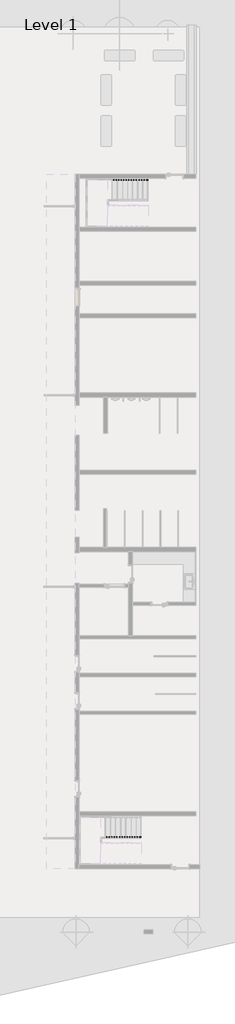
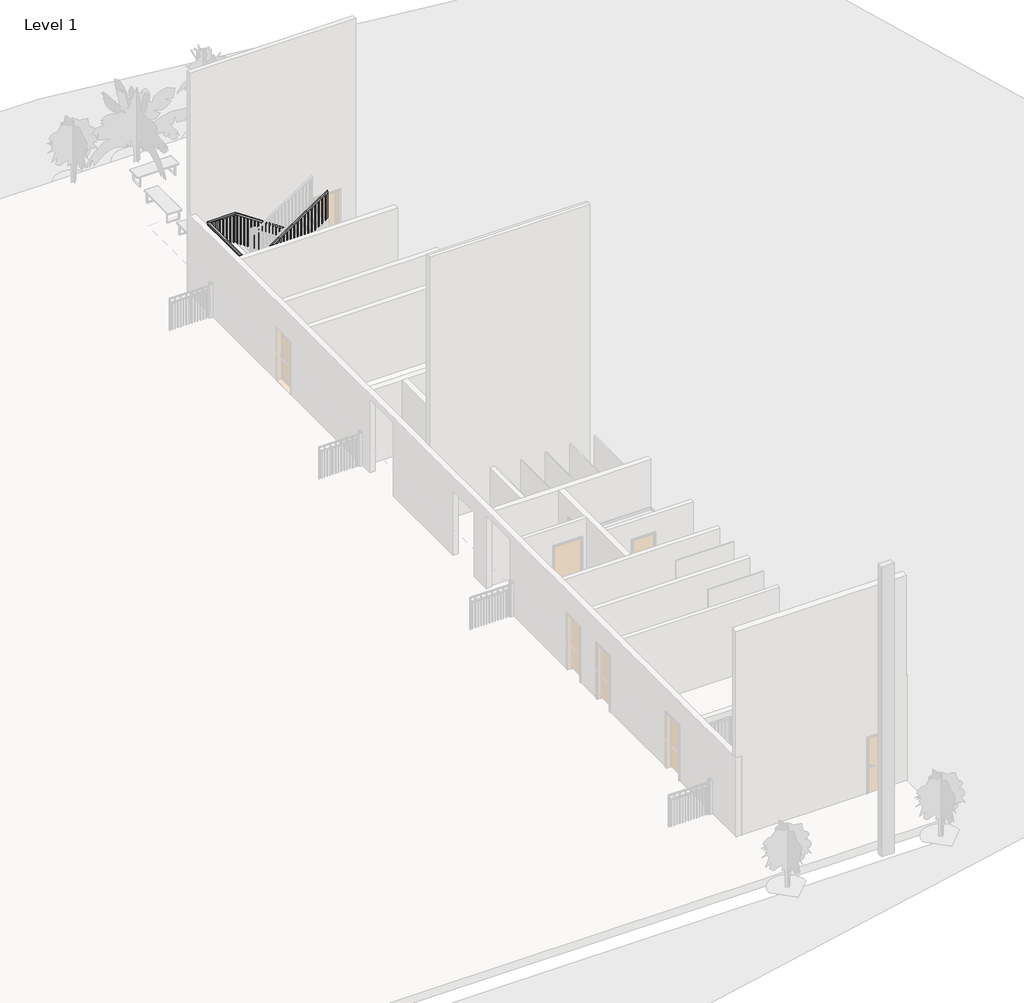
# One storey, part 28 of 32: 2 railings.
"""IFC4 building model written with IfcOpenShell, lengths in millimetres."""

from ifc_helpers import new_model, si_unit, frame, origin, place, context, project, spatial, polyline, outline, extrude, faceted_brep, element, save

model = new_model("IFC4")

# Units and contexts
model_context = context("Model", 3, world=origin())
ifc_project = project(units=[si_unit("LENGTHUNIT", "METRE", prefix="MILLI")], contexts=[model_context])

# Site, building, storey
site = spatial("IfcSite", under=ifc_project)
building = spatial("IfcBuilding", under=site)
storey = spatial("IfcBuildingStorey", under=building, Name="Level 1", Elevation=2800.0)

# Railings
placement = place(None, origin())
element("IfcRailing", 1, ObjectType="1100mm", at=placement, inside=storey, context=model_context, shape_type="SolidModel", body=[
    faceted_brep([(-15660.7705062, -31865.3565305, 4066.6666667), (-15660.7705062, -31865.3565305, 4006.5741454), (-15660.7705062, -31815.3565305, 4006.5741454), (-15660.7705062, -31815.3565305, 4066.6666667), (-17586.1705062, -31865.3565305, 5350.2666667), (-17636.1705062, -31865.3565305, 5323.5074787), (-17636.1705062, -31815.3565305, 5323.5074787), (-17586.1705062, -31815.3565305, 5350.2666667), (-17586.1705062, -31865.3565305, 5400.0), (-17636.1705062, -31865.3565305, 5350.0), (-17636.1705062, -31815.3565305, 5350.0), (-17586.1705062, -31815.3565305, 5400.0), (-17661.1705062, -31865.3565305, 5400.0), (-17661.1705062, -31865.3565305, 5350.0), (-17711.1705062, -31815.3565305, 5350.0), (-17711.1705062, -31815.3565305, 5400.0), (-17661.1705062, -31940.3565305, 5400.0), (-17661.1705062, -31940.3565305, 5350.0), (-17711.1705062, -31940.3565305, 5350.0), (-17711.1705062, -31940.3565305, 5400.0), (-17661.1705062, -32091.1565305, 5400.0), (-17661.1705062, -32141.1565305, 5350.0), (-17711.1705062, -32141.1565305, 5350.0), (-17711.1705062, -32091.1565305, 5400.0), (-17661.1705062, -32091.1565305, 5616.4), (-17661.1705062, -32141.1565305, 5566.4), (-17711.1705062, -32141.1565305, 5566.4), (-17711.1705062, -32091.1565305, 5616.4), (-17661.1705062, -32166.1565305, 5616.4), (-17661.1705062, -32166.1565305, 5566.4), (-17711.1705062, -32216.1565305, 5566.4), (-17711.1705062, -32216.1565305, 5616.4), (-17586.1705062, -32166.1565305, 5616.4), (-17571.0317243, -32166.1565305, 5566.4), (-17571.0317243, -32216.1565305, 5566.4), (-17586.1705062, -32216.1565305, 5616.4), (-15660.7705062, -32166.1565305, 6900.0), (-15660.7705062, -32216.1565305, 6900.0), (-15660.7705062, -32216.1565305, 6839.9074787), (-15660.7705062, -32166.1565305, 6839.9074787)], [[[0, 1, 2, 3]], [[1, 0, 4, 5]], [[2, 1, 5, 6]], [[3, 2, 6, 7]], [[0, 3, 7, 4]], [[5, 4, 8, 9]], [[6, 5, 9, 10]], [[7, 6, 10, 11]], [[4, 7, 11, 8]], [[9, 8, 12, 13]], [[10, 9, 13, 14]], [[11, 10, 14, 15]], [[8, 11, 15, 12]], [[13, 12, 16, 17]], [[14, 13, 17, 18]], [[15, 14, 18, 19]], [[12, 15, 19, 16]], [[17, 16, 20, 21]], [[18, 17, 21, 22]], [[19, 18, 22, 23]], [[16, 19, 23, 20]], [[21, 20, 24, 25]], [[22, 21, 25, 26]], [[23, 22, 26, 27]], [[20, 23, 27, 24]], [[25, 24, 28, 29]], [[26, 25, 29, 30]], [[27, 26, 30, 31]], [[24, 27, 31, 28]], [[29, 28, 32, 33]], [[30, 29, 33, 34]], [[31, 30, 34, 35]], [[28, 31, 35, 32]], [[36, 37, 38, 39]], [[33, 32, 36, 39]], [[34, 33, 39, 38]], [[35, 34, 38, 37]], [[32, 35, 37, 36]]]),
    extrude(outline(polyline([(5633.3333333, -15761.1705062), (5633.3333333, -15736.1705062), (6789.6408121, -15736.1705062), (6772.9741454, -15761.1705062), (5633.3333333, -15761.1705062)])), frame((0.0, -32203.6565305, 0.0), z_axis=(0.0, 1.0, 0.0), x_axis=(0.0, 0.0, 1.0)), (0.0, 0.0, 1.0), 25.0),
    extrude(outline(polyline([(5633.3333333, -15886.1705062), (5633.3333333, -15861.1705062), (6706.3074787, -15861.1705062), (6689.6408121, -15886.1705062), (5633.3333333, -15886.1705062)])), frame((0.0, -32203.6565305, 0.0), z_axis=(0.0, 1.0, 0.0), x_axis=(0.0, 0.0, 1.0)), (0.0, 0.0, 1.0), 25.0),
    extrude(outline(polyline([(5466.6666667, -16011.1705062), (5466.6666667, -15986.1705062), (6622.9741454, -15986.1705062), (6606.3074787, -16011.1705062), (5466.6666667, -16011.1705062)])), frame((0.0, -32203.6565305, 0.0), z_axis=(0.0, 1.0, 0.0), x_axis=(0.0, 0.0, 1.0)), (0.0, 0.0, 1.0), 25.0),
    extrude(outline(polyline([(5466.6666667, -16136.1705062), (5466.6666667, -16111.1705062), (6539.6408121, -16111.1705062), (6522.9741454, -16136.1705062), (5466.6666667, -16136.1705062)])), frame((0.0, -32203.6565305, 0.0), z_axis=(0.0, 1.0, 0.0), x_axis=(0.0, 0.0, 1.0)), (0.0, 0.0, 1.0), 25.0),
    extrude(outline(polyline([(5300.0, -16261.1705062), (5300.0, -16236.1705062), (6456.3074787, -16236.1705062), (6439.6408121, -16261.1705062), (5300.0, -16261.1705062)])), frame((0.0, -32203.6565305, 0.0), z_axis=(0.0, 1.0, 0.0), x_axis=(0.0, 0.0, 1.0)), (0.0, 0.0, 1.0), 25.0),
    extrude(outline(polyline([(5300.0, -16386.1705062), (5300.0, -16361.1705062), (6372.9741454, -16361.1705062), (6356.3074787, -16386.1705062), (5300.0, -16386.1705062)])), frame((0.0, -32203.6565305, 0.0), z_axis=(0.0, 1.0, 0.0), x_axis=(0.0, 0.0, 1.0)), (0.0, 0.0, 1.0), 25.0),
    extrude(outline(polyline([(5133.3333333, -16511.1705062), (5133.3333333, -16486.1705062), (6289.6408121, -16486.1705062), (6272.9741454, -16511.1705062), (5133.3333333, -16511.1705062)])), frame((0.0, -32203.6565305, 0.0), z_axis=(0.0, 1.0, 0.0), x_axis=(0.0, 0.0, 1.0)), (0.0, 0.0, 1.0), 25.0),
    extrude(outline(polyline([(5133.3333333, -16636.1705062), (5133.3333333, -16611.1705062), (6206.3074787, -16611.1705062), (6189.6408121, -16636.1705062), (5133.3333333, -16636.1705062)])), frame((0.0, -32203.6565305, 0.0), z_axis=(0.0, 1.0, 0.0), x_axis=(0.0, 0.0, 1.0)), (0.0, 0.0, 1.0), 25.0),
    extrude(outline(polyline([(4966.6666667, -16761.1705062), (4966.6666667, -16736.1705062), (6122.9741454, -16736.1705062), (6106.3074787, -16761.1705062), (4966.6666667, -16761.1705062)])), frame((0.0, -32203.6565305, 0.0), z_axis=(0.0, 1.0, 0.0), x_axis=(0.0, 0.0, 1.0)), (0.0, 0.0, 1.0), 25.0),
    extrude(outline(polyline([(4966.6666667, -16886.1705062), (4966.6666667, -16861.1705062), (6039.6408121, -16861.1705062), (6022.9741454, -16886.1705062), (4966.6666667, -16886.1705062)])), frame((0.0, -32203.6565305, 0.0), z_axis=(0.0, 1.0, 0.0), x_axis=(0.0, 0.0, 1.0)), (0.0, 0.0, 1.0), 25.0),
    extrude(outline(polyline([(4800.0, -17011.1705062), (4800.0, -16986.1705062), (5956.3074787, -16986.1705062), (5939.6408121, -17011.1705062), (4800.0, -17011.1705062)])), frame((0.0, -32203.6565305, 0.0), z_axis=(0.0, 1.0, 0.0), x_axis=(0.0, 0.0, 1.0)), (0.0, 0.0, 1.0), 25.0),
    extrude(outline(polyline([(4800.0, -17136.1705062), (4800.0, -17111.1705062), (5872.9741454, -17111.1705062), (5856.3074787, -17136.1705062), (4800.0, -17136.1705062)])), frame((0.0, -32203.6565305, 0.0), z_axis=(0.0, 1.0, 0.0), x_axis=(0.0, 0.0, 1.0)), (0.0, 0.0, 1.0), 25.0),
    extrude(outline(polyline([(4633.3333333, -17261.1705062), (4633.3333333, -17236.1705062), (5789.6408121, -17236.1705062), (5772.9741454, -17261.1705062), (4633.3333333, -17261.1705062)])), frame((0.0, -32203.6565305, 0.0), z_axis=(0.0, 1.0, 0.0), x_axis=(0.0, 0.0, 1.0)), (0.0, 0.0, 1.0), 25.0),
    extrude(outline(polyline([(4633.3333333, -17386.1705062), (4633.3333333, -17361.1705062), (5706.3074787, -17361.1705062), (5689.6408121, -17386.1705062), (4633.3333333, -17386.1705062)])), frame((0.0, -32203.6565305, 0.0), z_axis=(0.0, 1.0, 0.0), x_axis=(0.0, 0.0, 1.0)), (0.0, 0.0, 1.0), 25.0),
    extrude(outline(polyline([(4466.6666667, -17511.1705062), (4466.6666667, -17486.1705062), (5622.9741454, -17486.1705062), (5606.3074787, -17511.1705062), (4466.6666667, -17511.1705062)])), frame((0.0, -32203.6565305, 0.0), z_axis=(0.0, 1.0, 0.0), x_axis=(0.0, 0.0, 1.0)), (0.0, 0.0, 1.0), 25.0),
    extrude(outline(polyline([(-17636.1705062, -32178.6565305), (-17611.1705062, -32178.6565305), (-17611.1705062, -32203.6565305), (-17636.1705062, -32203.6565305), (-17636.1705062, -32178.6565305)])), frame((0.0, 0.0, 4466.6666667), z_axis=(0.0, 0.0, 1.0), x_axis=(1.0, 0.0, 0.0)), (0.0, 0.0, 1.0), 1099.7333333),
    extrude(outline(polyline([(-17673.6705062, -32140.3565305), (-17673.6705062, -32165.3565305), (-17698.6705062, -32165.3565305), (-17698.6705062, -32140.3565305), (-17673.6705062, -32140.3565305)])), frame((0.0, 0.0, 4300.0), z_axis=(0.0, 0.0, 1.0), x_axis=(1.0, 0.0, 0.0)), (0.0, 0.0, 1.0), 1266.4),
    extrude(outline(polyline([(-17673.6705062, -32015.3565305), (-17673.6705062, -32040.3565305), (-17698.6705062, -32040.3565305), (-17698.6705062, -32015.3565305), (-17673.6705062, -32015.3565305)])), frame((0.0, 0.0, 4300.0), z_axis=(0.0, 0.0, 1.0), x_axis=(1.0, 0.0, 0.0)), (0.0, 0.0, 1.0), 1050.0),
    extrude(outline(polyline([(-17673.6705062, -31890.3565305), (-17673.6705062, -31915.3565305), (-17698.6705062, -31915.3565305), (-17698.6705062, -31890.3565305), (-17673.6705062, -31890.3565305)])), frame((0.0, 0.0, 4300.0), z_axis=(0.0, 0.0, 1.0), x_axis=(1.0, 0.0, 0.0)), (0.0, 0.0, 1.0), 1050.0),
    extrude(outline(polyline([(-17585.7705062, -31852.8565305), (-17610.7705062, -31852.8565305), (-17610.7705062, -31827.8565305), (-17585.7705062, -31827.8565305), (-17585.7705062, -31852.8565305)])), frame((0.0, 0.0, 4133.3333333), z_axis=(0.0, 0.0, 1.0), x_axis=(1.0, 0.0, 0.0)), (0.0, 0.0, 1.0), 1216.6666667),
    extrude(outline(polyline([(5206.5741454, -17460.7705062), (5223.2408121, -17485.7705062), (4133.3333333, -17485.7705062), (4133.3333333, -17460.7705062), (5206.5741454, -17460.7705062)])), frame((0.0, -31852.8565305, 0.0), z_axis=(0.0, 1.0, 0.0), x_axis=(0.0, 0.0, 1.0)), (0.0, 0.0, 1.0), 25.0),
    extrude(outline(polyline([(5123.2408121, -17335.7705062), (5139.9074787, -17360.7705062), (3966.6666667, -17360.7705062), (3966.6666667, -17335.7705062), (5123.2408121, -17335.7705062)])), frame((0.0, -31852.8565305, 0.0), z_axis=(0.0, 1.0, 0.0), x_axis=(0.0, 0.0, 1.0)), (0.0, 0.0, 1.0), 25.0),
    extrude(outline(polyline([(5039.9074787, -17210.7705062), (5056.5741454, -17235.7705062), (3966.6666667, -17235.7705062), (3966.6666667, -17210.7705062), (5039.9074787, -17210.7705062)])), frame((0.0, -31852.8565305, 0.0), z_axis=(0.0, 1.0, 0.0), x_axis=(0.0, 0.0, 1.0)), (0.0, 0.0, 1.0), 25.0),
    extrude(outline(polyline([(4956.5741454, -17085.7705062), (4973.2408121, -17110.7705062), (3800.0, -17110.7705062), (3800.0, -17085.7705062), (4956.5741454, -17085.7705062)])), frame((0.0, -31852.8565305, 0.0), z_axis=(0.0, 1.0, 0.0), x_axis=(0.0, 0.0, 1.0)), (0.0, 0.0, 1.0), 25.0),
    extrude(outline(polyline([(4873.2408121, -16960.7705062), (4889.9074787, -16985.7705062), (3800.0, -16985.7705062), (3800.0, -16960.7705062), (4873.2408121, -16960.7705062)])), frame((0.0, -31852.8565305, 0.0), z_axis=(0.0, 1.0, 0.0), x_axis=(0.0, 0.0, 1.0)), (0.0, 0.0, 1.0), 25.0),
    extrude(outline(polyline([(4789.9074787, -16835.7705062), (4806.5741454, -16860.7705062), (3633.3333333, -16860.7705062), (3633.3333333, -16835.7705062), (4789.9074787, -16835.7705062)])), frame((0.0, -31852.8565305, 0.0), z_axis=(0.0, 1.0, 0.0), x_axis=(0.0, 0.0, 1.0)), (0.0, 0.0, 1.0), 25.0),
    extrude(outline(polyline([(4706.5741454, -16710.7705062), (4723.2408121, -16735.7705062), (3633.3333333, -16735.7705062), (3633.3333333, -16710.7705062), (4706.5741454, -16710.7705062)])), frame((0.0, -31852.8565305, 0.0), z_axis=(0.0, 1.0, 0.0), x_axis=(0.0, 0.0, 1.0)), (0.0, 0.0, 1.0), 25.0),
    extrude(outline(polyline([(4623.2408121, -16585.7705062), (4639.9074787, -16610.7705062), (3466.6666667, -16610.7705062), (3466.6666667, -16585.7705062), (4623.2408121, -16585.7705062)])), frame((0.0, -31852.8565305, 0.0), z_axis=(0.0, 1.0, 0.0), x_axis=(0.0, 0.0, 1.0)), (0.0, 0.0, 1.0), 25.0),
    extrude(outline(polyline([(4539.9074787, -16460.7705062), (4556.5741454, -16485.7705062), (3466.6666667, -16485.7705062), (3466.6666667, -16460.7705062), (4539.9074787, -16460.7705062)])), frame((0.0, -31852.8565305, 0.0), z_axis=(0.0, 1.0, 0.0), x_axis=(0.0, 0.0, 1.0)), (0.0, 0.0, 1.0), 25.0),
    extrude(outline(polyline([(4456.5741454, -16335.7705062), (4473.2408121, -16360.7705062), (3300.0, -16360.7705062), (3300.0, -16335.7705062), (4456.5741454, -16335.7705062)])), frame((0.0, -31852.8565305, 0.0), z_axis=(0.0, 1.0, 0.0), x_axis=(0.0, 0.0, 1.0)), (0.0, 0.0, 1.0), 25.0),
    extrude(outline(polyline([(4373.2408121, -16210.7705062), (4389.9074787, -16235.7705062), (3300.0, -16235.7705062), (3300.0, -16210.7705062), (4373.2408121, -16210.7705062)])), frame((0.0, -31852.8565305, 0.0), z_axis=(0.0, 1.0, 0.0), x_axis=(0.0, 0.0, 1.0)), (0.0, 0.0, 1.0), 25.0),
    extrude(outline(polyline([(4289.9074787, -16085.7705062), (4306.5741454, -16110.7705062), (3133.3333333, -16110.7705062), (3133.3333333, -16085.7705062), (4289.9074787, -16085.7705062)])), frame((0.0, -31852.8565305, 0.0), z_axis=(0.0, 1.0, 0.0), x_axis=(0.0, 0.0, 1.0)), (0.0, 0.0, 1.0), 25.0),
    extrude(outline(polyline([(4206.5741454, -15960.7705062), (4223.2408121, -15985.7705062), (3133.3333333, -15985.7705062), (3133.3333333, -15960.7705062), (4206.5741454, -15960.7705062)])), frame((0.0, -31852.8565305, 0.0), z_axis=(0.0, 1.0, 0.0), x_axis=(0.0, 0.0, 1.0)), (0.0, 0.0, 1.0), 25.0),
    extrude(outline(polyline([(4123.2408121, -15835.7705062), (4139.9074787, -15860.7705062), (2966.6666667, -15860.7705062), (2966.6666667, -15835.7705062), (4123.2408121, -15835.7705062)])), frame((0.0, -31852.8565305, 0.0), z_axis=(0.0, 1.0, 0.0), x_axis=(0.0, 0.0, 1.0)), (0.0, 0.0, 1.0), 25.0),
    extrude(outline(polyline([(4039.9074787, -15710.7705062), (4056.5741454, -15735.7705062), (2966.6666667, -15735.7705062), (2966.6666667, -15710.7705062), (4039.9074787, -15710.7705062)])), frame((0.0, -31852.8565305, 0.0), z_axis=(0.0, 1.0, 0.0), x_axis=(0.0, 0.0, 1.0)), (0.0, 0.0, 1.0), 25.0),
    extrude(outline(polyline([(-17673.6705062, -32178.6565305), (-17673.6705062, -32203.6565305), (-17698.6705062, -32203.6565305), (-17698.6705062, -32178.6565305), (-17673.6705062, -32178.6565305)])), frame((0.0, 0.0, 4300.0), z_axis=(0.0, 0.0, 1.0), x_axis=(1.0, 0.0, 0.0)), (0.0, 0.0, 1.0), 1266.4),
    extrude(outline(polyline([(-17673.6705062, -31852.8565305), (-17698.6705062, -31852.8565305), (-17698.6705062, -31827.8565305), (-17673.6705062, -31827.8565305), (-17673.6705062, -31852.8565305)])), frame((0.0, 0.0, 4300.0), z_axis=(0.0, 0.0, 1.0), x_axis=(1.0, 0.0, 0.0)), (0.0, 0.0, 1.0), 1050.0),
    extrude(outline(polyline([(5633.3333333, -15685.7705062), (5633.3333333, -15660.7705062), (6839.9074787, -15660.7705062), (6823.2408121, -15685.7705062), (5633.3333333, -15685.7705062)])), frame((0.0, -32203.6565305, 0.0), z_axis=(0.0, 1.0, 0.0), x_axis=(0.0, 0.0, 1.0)), (0.0, 0.0, 1.0), 25.0),
    extrude(outline(polyline([(4006.5741454, -15660.7705062), (4023.2408121, -15685.7705062), (2966.6666667, -15685.7705062), (2966.6666667, -15660.7705062), (4006.5741454, -15660.7705062)])), frame((0.0, -31852.8565305, 0.0), z_axis=(0.0, 1.0, 0.0), x_axis=(0.0, 0.0, 1.0)), (0.0, 0.0, 1.0), 25.0),
])
element("IfcRailing", 2, ObjectType="1100mm", at=placement, inside=storey, context=model_context, shape_type="SolidModel", body=[
    faceted_brep([(-15325.9339353, 443.2800404, 4066.6666667), (-15325.9339353, 443.2800404, 4006.5741454), (-15325.9339353, 493.2800404, 4006.5741454), (-15325.9339353, 493.2800404, 4066.6666667), (-17325.9339353, 443.2800404, 5400.0), (-17341.0727172, 443.2800404, 5350.0), (-17341.0727172, 493.2800404, 5350.0), (-17325.9339353, 493.2800404, 5400.0), (-18275.5339353, 443.2800404, 5400.0), (-18275.5339353, 443.2800404, 5350.0), (-18325.5339353, 493.2800404, 5350.0), (-18325.5339353, 493.2800404, 5400.0), (-18275.5339353, -1755.9199596, 5400.0), (-18275.5339353, -1755.9199596, 5350.0), (-18325.5339353, -1805.9199596, 5350.0), (-18325.5339353, -1805.9199596, 5400.0), (-17575.9339353, -1755.9199596, 5400.0), (-17560.7951534, -1755.9199596, 5350.0), (-17560.7951534, -1805.9199596, 5350.0), (-17575.9339353, -1805.9199596, 5400.0), (-17325.9339353, -1755.9199596, 5566.6666667), (-17298.1989255, -1755.9199596, 5525.0641519), (-17298.1989255, -1805.9199596, 5525.0641519), (-17325.9339353, -1805.9199596, 5566.6666667), (-15325.9339353, -1755.9199596, 6900.0), (-15325.9339353, -1805.9199596, 6900.0), (-15325.9339353, -1805.9199596, 6839.9074787), (-15325.9339353, -1755.9199596, 6839.9074787)], [[[0, 1, 2, 3]], [[1, 0, 4, 5]], [[2, 1, 5, 6]], [[3, 2, 6, 7]], [[0, 3, 7, 4]], [[5, 4, 8, 9]], [[6, 5, 9, 10]], [[7, 6, 10, 11]], [[4, 7, 11, 8]], [[9, 8, 12, 13]], [[10, 9, 13, 14]], [[11, 10, 14, 15]], [[8, 11, 15, 12]], [[13, 12, 16, 17]], [[14, 13, 17, 18]], [[15, 14, 18, 19]], [[12, 15, 19, 16]], [[17, 16, 20, 21]], [[18, 17, 21, 22]], [[19, 18, 22, 23]], [[16, 19, 23, 20]], [[24, 25, 26, 27]], [[21, 20, 24, 27]], [[22, 21, 27, 26]], [[23, 22, 26, 25]], [[20, 23, 25, 24]]]),
    extrude(outline(polyline([(6789.9074787, -15400.9339353), (5633.3333333, -15400.9339353), (5633.3333333, -15375.9339353), (6806.5741454, -15375.9339353), (6789.9074787, -15400.9339353)])), frame((0.0, -1793.4199596, 0.0), z_axis=(0.0, 1.0, 0.0), x_axis=(0.0, 0.0, 1.0)), (0.0, 0.0, 1.0), 25.0),
    extrude(outline(polyline([(6706.5741454, -15525.9339353), (5633.3333333, -15525.9339353), (5633.3333333, -15500.9339353), (6723.2408121, -15500.9339353), (6706.5741454, -15525.9339353)])), frame((0.0, -1793.4199596, 0.0), z_axis=(0.0, 1.0, 0.0), x_axis=(0.0, 0.0, 1.0)), (0.0, 0.0, 1.0), 25.0),
    extrude(outline(polyline([(6623.2408121, -15650.9339353), (5466.6666667, -15650.9339353), (5466.6666667, -15625.9339353), (6639.9074787, -15625.9339353), (6623.2408121, -15650.9339353)])), frame((0.0, -1793.4199596, 0.0), z_axis=(0.0, 1.0, 0.0), x_axis=(0.0, 0.0, 1.0)), (0.0, 0.0, 1.0), 25.0),
    extrude(outline(polyline([(6539.9074787, -15775.9339353), (5466.6666667, -15775.9339353), (5466.6666667, -15750.9339353), (6556.5741454, -15750.9339353), (6539.9074787, -15775.9339353)])), frame((0.0, -1793.4199596, 0.0), z_axis=(0.0, 1.0, 0.0), x_axis=(0.0, 0.0, 1.0)), (0.0, 0.0, 1.0), 25.0),
    extrude(outline(polyline([(6456.5741454, -15900.9339353), (5300.0, -15900.9339353), (5300.0, -15875.9339353), (6473.2408121, -15875.9339353), (6456.5741454, -15900.9339353)])), frame((0.0, -1793.4199596, 0.0), z_axis=(0.0, 1.0, 0.0), x_axis=(0.0, 0.0, 1.0)), (0.0, 0.0, 1.0), 25.0),
    extrude(outline(polyline([(6373.2408121, -16025.9339353), (5300.0, -16025.9339353), (5300.0, -16000.9339353), (6389.9074787, -16000.9339353), (6373.2408121, -16025.9339353)])), frame((0.0, -1793.4199596, 0.0), z_axis=(0.0, 1.0, 0.0), x_axis=(0.0, 0.0, 1.0)), (0.0, 0.0, 1.0), 25.0),
    extrude(outline(polyline([(6289.9074787, -16150.9339353), (5133.3333333, -16150.9339353), (5133.3333333, -16125.9339353), (6306.5741454, -16125.9339353), (6289.9074787, -16150.9339353)])), frame((0.0, -1793.4199596, 0.0), z_axis=(0.0, 1.0, 0.0), x_axis=(0.0, 0.0, 1.0)), (0.0, 0.0, 1.0), 25.0),
    extrude(outline(polyline([(6206.5741454, -16275.9339353), (5133.3333333, -16275.9339353), (5133.3333333, -16250.9339353), (6223.2408121, -16250.9339353), (6206.5741454, -16275.9339353)])), frame((0.0, -1793.4199596, 0.0), z_axis=(0.0, 1.0, 0.0), x_axis=(0.0, 0.0, 1.0)), (0.0, 0.0, 1.0), 25.0),
    extrude(outline(polyline([(6123.2408121, -16400.9339353), (4966.6666667, -16400.9339353), (4966.6666667, -16375.9339353), (6139.9074787, -16375.9339353), (6123.2408121, -16400.9339353)])), frame((0.0, -1793.4199596, 0.0), z_axis=(0.0, 1.0, 0.0), x_axis=(0.0, 0.0, 1.0)), (0.0, 0.0, 1.0), 25.0),
    extrude(outline(polyline([(6039.9074787, -16525.9339353), (4966.6666667, -16525.9339353), (4966.6666667, -16500.9339353), (6056.5741454, -16500.9339353), (6039.9074787, -16525.9339353)])), frame((0.0, -1793.4199596, 0.0), z_axis=(0.0, 1.0, 0.0), x_axis=(0.0, 0.0, 1.0)), (0.0, 0.0, 1.0), 25.0),
    extrude(outline(polyline([(5956.5741454, -16650.9339353), (4800.0, -16650.9339353), (4800.0, -16625.9339353), (5973.2408121, -16625.9339353), (5956.5741454, -16650.9339353)])), frame((0.0, -1793.4199596, 0.0), z_axis=(0.0, 1.0, 0.0), x_axis=(0.0, 0.0, 1.0)), (0.0, 0.0, 1.0), 25.0),
    extrude(outline(polyline([(5873.2408121, -16775.9339353), (4800.0, -16775.9339353), (4800.0, -16750.9339353), (5889.9074787, -16750.9339353), (5873.2408121, -16775.9339353)])), frame((0.0, -1793.4199596, 0.0), z_axis=(0.0, 1.0, 0.0), x_axis=(0.0, 0.0, 1.0)), (0.0, 0.0, 1.0), 25.0),
    extrude(outline(polyline([(5789.9074787, -16900.9339353), (4633.3333333, -16900.9339353), (4633.3333333, -16875.9339353), (5806.5741454, -16875.9339353), (5789.9074787, -16900.9339353)])), frame((0.0, -1793.4199596, 0.0), z_axis=(0.0, 1.0, 0.0), x_axis=(0.0, 0.0, 1.0)), (0.0, 0.0, 1.0), 25.0),
    extrude(outline(polyline([(5706.5741454, -17025.9339353), (4633.3333333, -17025.9339353), (4633.3333333, -17000.9339353), (5723.2408121, -17000.9339353), (5706.5741454, -17025.9339353)])), frame((0.0, -1793.4199596, 0.0), z_axis=(0.0, 1.0, 0.0), x_axis=(0.0, 0.0, 1.0)), (0.0, 0.0, 1.0), 25.0),
    extrude(outline(polyline([(5623.2408121, -17150.9339353), (4466.6666667, -17150.9339353), (4466.6666667, -17125.9339353), (5639.9074787, -17125.9339353), (5623.2408121, -17150.9339353)])), frame((0.0, -1793.4199596, 0.0), z_axis=(0.0, 1.0, 0.0), x_axis=(0.0, 0.0, 1.0)), (0.0, 0.0, 1.0), 25.0),
    extrude(outline(polyline([(5539.9074787, -17275.9339353), (4466.6666667, -17275.9339353), (4466.6666667, -17250.9339353), (5556.5741454, -17250.9339353), (5539.9074787, -17275.9339353)])), frame((0.0, -1793.4199596, 0.0), z_axis=(0.0, 1.0, 0.0), x_axis=(0.0, 0.0, 1.0)), (0.0, 0.0, 1.0), 25.0),
    extrude(outline(polyline([(5473.5074787, -17375.5339353), (4300.0, -17375.5339353), (4300.0, -17350.5339353), (5490.1741454, -17350.5339353), (5473.5074787, -17375.5339353)])), frame((0.0, -1793.4199596, 0.0), z_axis=(0.0, 1.0, 0.0), x_axis=(0.0, 0.0, 1.0)), (0.0, 0.0, 1.0), 25.0),
    extrude(outline(polyline([(5390.1741454, -17500.5339353), (4300.0, -17500.5339353), (4300.0, -17475.5339353), (5406.8408121, -17475.5339353), (5390.1741454, -17500.5339353)])), frame((0.0, -1793.4199596, 0.0), z_axis=(0.0, 1.0, 0.0), x_axis=(0.0, 0.0, 1.0)), (0.0, 0.0, 1.0), 25.0),
    extrude(outline(polyline([(-17625.5339353, -1793.4199596), (-17625.5339353, -1768.4199596), (-17600.5339353, -1768.4199596), (-17600.5339353, -1793.4199596), (-17625.5339353, -1793.4199596)])), frame((0.0, 0.0, 4300.0), z_axis=(0.0, 0.0, 1.0), x_axis=(1.0, 0.0, 0.0)), (0.0, 0.0, 1.0), 1050.0),
    extrude(outline(polyline([(-17750.5339353, -1793.4199596), (-17750.5339353, -1768.4199596), (-17725.5339353, -1768.4199596), (-17725.5339353, -1793.4199596), (-17750.5339353, -1793.4199596)])), frame((0.0, 0.0, 4300.0), z_axis=(0.0, 0.0, 1.0), x_axis=(1.0, 0.0, 0.0)), (0.0, 0.0, 1.0), 1050.0),
    extrude(outline(polyline([(-17875.5339353, -1793.4199596), (-17875.5339353, -1768.4199596), (-17850.5339353, -1768.4199596), (-17850.5339353, -1793.4199596), (-17875.5339353, -1793.4199596)])), frame((0.0, 0.0, 4300.0), z_axis=(0.0, 0.0, 1.0), x_axis=(1.0, 0.0, 0.0)), (0.0, 0.0, 1.0), 1050.0),
    extrude(outline(polyline([(-18000.5339353, -1793.4199596), (-18000.5339353, -1768.4199596), (-17975.5339353, -1768.4199596), (-17975.5339353, -1793.4199596), (-18000.5339353, -1793.4199596)])), frame((0.0, 0.0, 4300.0), z_axis=(0.0, 0.0, 1.0), x_axis=(1.0, 0.0, 0.0)), (0.0, 0.0, 1.0), 1050.0),
    extrude(outline(polyline([(-18125.5339353, -1793.4199596), (-18125.5339353, -1768.4199596), (-18100.5339353, -1768.4199596), (-18100.5339353, -1793.4199596), (-18125.5339353, -1793.4199596)])), frame((0.0, 0.0, 4300.0), z_axis=(0.0, 0.0, 1.0), x_axis=(1.0, 0.0, 0.0)), (0.0, 0.0, 1.0), 1050.0),
    extrude(outline(polyline([(-18250.5339353, -1793.4199596), (-18250.5339353, -1768.4199596), (-18225.5339353, -1768.4199596), (-18225.5339353, -1793.4199596), (-18250.5339353, -1793.4199596)])), frame((0.0, 0.0, 4300.0), z_axis=(0.0, 0.0, 1.0), x_axis=(1.0, 0.0, 0.0)), (0.0, 0.0, 1.0), 1050.0),
    extrude(outline(polyline([(-18313.0339353, -1706.7199596), (-18288.0339353, -1706.7199596), (-18288.0339353, -1731.7199596), (-18313.0339353, -1731.7199596), (-18313.0339353, -1706.7199596)])), frame((0.0, 0.0, 4300.0), z_axis=(0.0, 0.0, 1.0), x_axis=(1.0, 0.0, 0.0)), (0.0, 0.0, 1.0), 1050.0),
    extrude(outline(polyline([(-18313.0339353, -1581.7199596), (-18288.0339353, -1581.7199596), (-18288.0339353, -1606.7199596), (-18313.0339353, -1606.7199596), (-18313.0339353, -1581.7199596)])), frame((0.0, 0.0, 4300.0), z_axis=(0.0, 0.0, 1.0), x_axis=(1.0, 0.0, 0.0)), (0.0, 0.0, 1.0), 1050.0),
    extrude(outline(polyline([(-18313.0339353, -1456.7199596), (-18288.0339353, -1456.7199596), (-18288.0339353, -1481.7199596), (-18313.0339353, -1481.7199596), (-18313.0339353, -1456.7199596)])), frame((0.0, 0.0, 4300.0), z_axis=(0.0, 0.0, 1.0), x_axis=(1.0, 0.0, 0.0)), (0.0, 0.0, 1.0), 1050.0),
    extrude(outline(polyline([(-18313.0339353, -1331.7199596), (-18288.0339353, -1331.7199596), (-18288.0339353, -1356.7199596), (-18313.0339353, -1356.7199596), (-18313.0339353, -1331.7199596)])), frame((0.0, 0.0, 4300.0), z_axis=(0.0, 0.0, 1.0), x_axis=(1.0, 0.0, 0.0)), (0.0, 0.0, 1.0), 1050.0),
    extrude(outline(polyline([(-18313.0339353, -1206.7199596), (-18288.0339353, -1206.7199596), (-18288.0339353, -1231.7199596), (-18313.0339353, -1231.7199596), (-18313.0339353, -1206.7199596)])), frame((0.0, 0.0, 4300.0), z_axis=(0.0, 0.0, 1.0), x_axis=(1.0, 0.0, 0.0)), (0.0, 0.0, 1.0), 1050.0),
    extrude(outline(polyline([(-18313.0339353, -1081.7199596), (-18288.0339353, -1081.7199596), (-18288.0339353, -1106.7199596), (-18313.0339353, -1106.7199596), (-18313.0339353, -1081.7199596)])), frame((0.0, 0.0, 4300.0), z_axis=(0.0, 0.0, 1.0), x_axis=(1.0, 0.0, 0.0)), (0.0, 0.0, 1.0), 1050.0),
    extrude(outline(polyline([(-18313.0339353, -956.7199596), (-18288.0339353, -956.7199596), (-18288.0339353, -981.7199596), (-18313.0339353, -981.7199596), (-18313.0339353, -956.7199596)])), frame((0.0, 0.0, 4300.0), z_axis=(0.0, 0.0, 1.0), x_axis=(1.0, 0.0, 0.0)), (0.0, 0.0, 1.0), 1050.0),
    extrude(outline(polyline([(-18313.0339353, -831.7199596), (-18288.0339353, -831.7199596), (-18288.0339353, -856.7199596), (-18313.0339353, -856.7199596), (-18313.0339353, -831.7199596)])), frame((0.0, 0.0, 4300.0), z_axis=(0.0, 0.0, 1.0), x_axis=(1.0, 0.0, 0.0)), (0.0, 0.0, 1.0), 1050.0),
    extrude(outline(polyline([(-18313.0339353, -706.7199596), (-18288.0339353, -706.7199596), (-18288.0339353, -731.7199596), (-18313.0339353, -731.7199596), (-18313.0339353, -706.7199596)])), frame((0.0, 0.0, 4300.0), z_axis=(0.0, 0.0, 1.0), x_axis=(1.0, 0.0, 0.0)), (0.0, 0.0, 1.0), 1050.0),
    extrude(outline(polyline([(-18313.0339353, -581.7199596), (-18288.0339353, -581.7199596), (-18288.0339353, -606.7199596), (-18313.0339353, -606.7199596), (-18313.0339353, -581.7199596)])), frame((0.0, 0.0, 4300.0), z_axis=(0.0, 0.0, 1.0), x_axis=(1.0, 0.0, 0.0)), (0.0, 0.0, 1.0), 1050.0),
    extrude(outline(polyline([(-18313.0339353, -456.7199596), (-18288.0339353, -456.7199596), (-18288.0339353, -481.7199596), (-18313.0339353, -481.7199596), (-18313.0339353, -456.7199596)])), frame((0.0, 0.0, 4300.0), z_axis=(0.0, 0.0, 1.0), x_axis=(1.0, 0.0, 0.0)), (0.0, 0.0, 1.0), 1050.0),
    extrude(outline(polyline([(-18313.0339353, -331.7199596), (-18288.0339353, -331.7199596), (-18288.0339353, -356.7199596), (-18313.0339353, -356.7199596), (-18313.0339353, -331.7199596)])), frame((0.0, 0.0, 4300.0), z_axis=(0.0, 0.0, 1.0), x_axis=(1.0, 0.0, 0.0)), (0.0, 0.0, 1.0), 1050.0),
    extrude(outline(polyline([(-18313.0339353, -206.7199596), (-18288.0339353, -206.7199596), (-18288.0339353, -231.7199596), (-18313.0339353, -231.7199596), (-18313.0339353, -206.7199596)])), frame((0.0, 0.0, 4300.0), z_axis=(0.0, 0.0, 1.0), x_axis=(1.0, 0.0, 0.0)), (0.0, 0.0, 1.0), 1050.0),
    extrude(outline(polyline([(-18313.0339353, -81.7199596), (-18288.0339353, -81.7199596), (-18288.0339353, -106.7199596), (-18313.0339353, -106.7199596), (-18313.0339353, -81.7199596)])), frame((0.0, 0.0, 4300.0), z_axis=(0.0, 0.0, 1.0), x_axis=(1.0, 0.0, 0.0)), (0.0, 0.0, 1.0), 1050.0),
    extrude(outline(polyline([(-18313.0339353, 43.2800404), (-18288.0339353, 43.2800404), (-18288.0339353, 18.2800404), (-18313.0339353, 18.2800404), (-18313.0339353, 43.2800404)])), frame((0.0, 0.0, 4300.0), z_axis=(0.0, 0.0, 1.0), x_axis=(1.0, 0.0, 0.0)), (0.0, 0.0, 1.0), 1050.0),
    extrude(outline(polyline([(-18313.0339353, 168.2800404), (-18288.0339353, 168.2800404), (-18288.0339353, 143.2800404), (-18313.0339353, 143.2800404), (-18313.0339353, 168.2800404)])), frame((0.0, 0.0, 4300.0), z_axis=(0.0, 0.0, 1.0), x_axis=(1.0, 0.0, 0.0)), (0.0, 0.0, 1.0), 1050.0),
    extrude(outline(polyline([(-18313.0339353, 293.2800404), (-18288.0339353, 293.2800404), (-18288.0339353, 268.2800404), (-18313.0339353, 268.2800404), (-18313.0339353, 293.2800404)])), frame((0.0, 0.0, 4300.0), z_axis=(0.0, 0.0, 1.0), x_axis=(1.0, 0.0, 0.0)), (0.0, 0.0, 1.0), 1050.0),
    extrude(outline(polyline([(-18313.0339353, 418.2800404), (-18288.0339353, 418.2800404), (-18288.0339353, 393.2800404), (-18313.0339353, 393.2800404), (-18313.0339353, 418.2800404)])), frame((0.0, 0.0, 4300.0), z_axis=(0.0, 0.0, 1.0), x_axis=(1.0, 0.0, 0.0)), (0.0, 0.0, 1.0), 1050.0),
    extrude(outline(polyline([(-18250.9339353, 480.7800404), (-18250.9339353, 455.7800404), (-18275.9339353, 455.7800404), (-18275.9339353, 480.7800404), (-18250.9339353, 480.7800404)])), frame((0.0, 0.0, 4300.0), z_axis=(0.0, 0.0, 1.0), x_axis=(1.0, 0.0, 0.0)), (0.0, 0.0, 1.0), 1050.0),
    extrude(outline(polyline([(-18125.9339353, 480.7800404), (-18125.9339353, 455.7800404), (-18150.9339353, 455.7800404), (-18150.9339353, 480.7800404), (-18125.9339353, 480.7800404)])), frame((0.0, 0.0, 4300.0), z_axis=(0.0, 0.0, 1.0), x_axis=(1.0, 0.0, 0.0)), (0.0, 0.0, 1.0), 1050.0),
    extrude(outline(polyline([(-18000.9339353, 480.7800404), (-18000.9339353, 455.7800404), (-18025.9339353, 455.7800404), (-18025.9339353, 480.7800404), (-18000.9339353, 480.7800404)])), frame((0.0, 0.0, 4300.0), z_axis=(0.0, 0.0, 1.0), x_axis=(1.0, 0.0, 0.0)), (0.0, 0.0, 1.0), 1050.0),
    extrude(outline(polyline([(-17875.9339353, 480.7800404), (-17875.9339353, 455.7800404), (-17900.9339353, 455.7800404), (-17900.9339353, 480.7800404), (-17875.9339353, 480.7800404)])), frame((0.0, 0.0, 4300.0), z_axis=(0.0, 0.0, 1.0), x_axis=(1.0, 0.0, 0.0)), (0.0, 0.0, 1.0), 1050.0),
    extrude(outline(polyline([(-17750.9339353, 480.7800404), (-17750.9339353, 455.7800404), (-17775.9339353, 455.7800404), (-17775.9339353, 480.7800404), (-17750.9339353, 480.7800404)])), frame((0.0, 0.0, 4300.0), z_axis=(0.0, 0.0, 1.0), x_axis=(1.0, 0.0, 0.0)), (0.0, 0.0, 1.0), 1050.0),
    extrude(outline(polyline([(-17625.9339353, 480.7800404), (-17625.9339353, 455.7800404), (-17650.9339353, 455.7800404), (-17650.9339353, 480.7800404), (-17625.9339353, 480.7800404)])), frame((0.0, 0.0, 4300.0), z_axis=(0.0, 0.0, 1.0), x_axis=(1.0, 0.0, 0.0)), (0.0, 0.0, 1.0), 1050.0),
    extrude(outline(polyline([(-17500.9339353, 480.7800404), (-17500.9339353, 455.7800404), (-17525.9339353, 455.7800404), (-17525.9339353, 480.7800404), (-17500.9339353, 480.7800404)])), frame((0.0, 0.0, 4300.0), z_axis=(0.0, 0.0, 1.0), x_axis=(1.0, 0.0, 0.0)), (0.0, 0.0, 1.0), 1050.0),
    extrude(outline(polyline([(-17375.9339353, 480.7800404), (-17375.9339353, 455.7800404), (-17400.9339353, 455.7800404), (-17400.9339353, 480.7800404), (-17375.9339353, 480.7800404)])), frame((0.0, 0.0, 4300.0), z_axis=(0.0, 0.0, 1.0), x_axis=(1.0, 0.0, 0.0)), (0.0, 0.0, 1.0), 1050.0),
    extrude(outline(polyline([(4133.3333333, -17250.9339353), (5289.9074787, -17250.9339353), (5306.5741454, -17275.9339353), (4133.3333333, -17275.9339353), (4133.3333333, -17250.9339353)])), frame((0.0, 455.7800404, 0.0), z_axis=(0.0, 1.0, 0.0), x_axis=(0.0, 0.0, 1.0)), (0.0, 0.0, 1.0), 25.0),
    extrude(outline(polyline([(4133.3333333, -17125.9339353), (5206.5741454, -17125.9339353), (5223.2408121, -17150.9339353), (4133.3333333, -17150.9339353), (4133.3333333, -17125.9339353)])), frame((0.0, 455.7800404, 0.0), z_axis=(0.0, 1.0, 0.0), x_axis=(0.0, 0.0, 1.0)), (0.0, 0.0, 1.0), 25.0),
    extrude(outline(polyline([(3966.6666667, -17000.9339353), (5123.2408121, -17000.9339353), (5139.9074787, -17025.9339353), (3966.6666667, -17025.9339353), (3966.6666667, -17000.9339353)])), frame((0.0, 455.7800404, 0.0), z_axis=(0.0, 1.0, 0.0), x_axis=(0.0, 0.0, 1.0)), (0.0, 0.0, 1.0), 25.0),
    extrude(outline(polyline([(3966.6666667, -16875.9339353), (5039.9074787, -16875.9339353), (5056.5741454, -16900.9339353), (3966.6666667, -16900.9339353), (3966.6666667, -16875.9339353)])), frame((0.0, 455.7800404, 0.0), z_axis=(0.0, 1.0, 0.0), x_axis=(0.0, 0.0, 1.0)), (0.0, 0.0, 1.0), 25.0),
    extrude(outline(polyline([(3800.0, -16750.9339353), (4956.5741454, -16750.9339353), (4973.2408121, -16775.9339353), (3800.0, -16775.9339353), (3800.0, -16750.9339353)])), frame((0.0, 455.7800404, 0.0), z_axis=(0.0, 1.0, 0.0), x_axis=(0.0, 0.0, 1.0)), (0.0, 0.0, 1.0), 25.0),
    extrude(outline(polyline([(3800.0, -16625.9339353), (4873.2408121, -16625.9339353), (4889.9074787, -16650.9339353), (3800.0, -16650.9339353), (3800.0, -16625.9339353)])), frame((0.0, 455.7800404, 0.0), z_axis=(0.0, 1.0, 0.0), x_axis=(0.0, 0.0, 1.0)), (0.0, 0.0, 1.0), 25.0),
    extrude(outline(polyline([(3633.3333333, -16500.9339353), (4789.9074787, -16500.9339353), (4806.5741454, -16525.9339353), (3633.3333333, -16525.9339353), (3633.3333333, -16500.9339353)])), frame((0.0, 455.7800404, 0.0), z_axis=(0.0, 1.0, 0.0), x_axis=(0.0, 0.0, 1.0)), (0.0, 0.0, 1.0), 25.0),
    extrude(outline(polyline([(3633.3333333, -16375.9339353), (4706.5741454, -16375.9339353), (4723.2408121, -16400.9339353), (3633.3333333, -16400.9339353), (3633.3333333, -16375.9339353)])), frame((0.0, 455.7800404, 0.0), z_axis=(0.0, 1.0, 0.0), x_axis=(0.0, 0.0, 1.0)), (0.0, 0.0, 1.0), 25.0),
    extrude(outline(polyline([(3466.6666667, -16250.9339353), (4623.2408121, -16250.9339353), (4639.9074787, -16275.9339353), (3466.6666667, -16275.9339353), (3466.6666667, -16250.9339353)])), frame((0.0, 455.7800404, 0.0), z_axis=(0.0, 1.0, 0.0), x_axis=(0.0, 0.0, 1.0)), (0.0, 0.0, 1.0), 25.0),
    extrude(outline(polyline([(3466.6666667, -16125.9339353), (4539.9074787, -16125.9339353), (4556.5741454, -16150.9339353), (3466.6666667, -16150.9339353), (3466.6666667, -16125.9339353)])), frame((0.0, 455.7800404, 0.0), z_axis=(0.0, 1.0, 0.0), x_axis=(0.0, 0.0, 1.0)), (0.0, 0.0, 1.0), 25.0),
    extrude(outline(polyline([(3300.0, -16000.9339353), (4456.5741454, -16000.9339353), (4473.2408121, -16025.9339353), (3300.0, -16025.9339353), (3300.0, -16000.9339353)])), frame((0.0, 455.7800404, 0.0), z_axis=(0.0, 1.0, 0.0), x_axis=(0.0, 0.0, 1.0)), (0.0, 0.0, 1.0), 25.0),
    extrude(outline(polyline([(3300.0, -15875.9339353), (4373.2408121, -15875.9339353), (4389.9074787, -15900.9339353), (3300.0, -15900.9339353), (3300.0, -15875.9339353)])), frame((0.0, 455.7800404, 0.0), z_axis=(0.0, 1.0, 0.0), x_axis=(0.0, 0.0, 1.0)), (0.0, 0.0, 1.0), 25.0),
    extrude(outline(polyline([(3133.3333333, -15750.9339353), (4289.9074787, -15750.9339353), (4306.5741454, -15775.9339353), (3133.3333333, -15775.9339353), (3133.3333333, -15750.9339353)])), frame((0.0, 455.7800404, 0.0), z_axis=(0.0, 1.0, 0.0), x_axis=(0.0, 0.0, 1.0)), (0.0, 0.0, 1.0), 25.0),
    extrude(outline(polyline([(3133.3333333, -15625.9339353), (4206.5741454, -15625.9339353), (4223.2408121, -15650.9339353), (3133.3333333, -15650.9339353), (3133.3333333, -15625.9339353)])), frame((0.0, 455.7800404, 0.0), z_axis=(0.0, 1.0, 0.0), x_axis=(0.0, 0.0, 1.0)), (0.0, 0.0, 1.0), 25.0),
    extrude(outline(polyline([(2966.6666667, -15500.9339353), (4123.2408121, -15500.9339353), (4139.9074787, -15525.9339353), (2966.6666667, -15525.9339353), (2966.6666667, -15500.9339353)])), frame((0.0, 455.7800404, 0.0), z_axis=(0.0, 1.0, 0.0), x_axis=(0.0, 0.0, 1.0)), (0.0, 0.0, 1.0), 25.0),
    extrude(outline(polyline([(2966.6666667, -15375.9339353), (4039.9074787, -15375.9339353), (4056.5741454, -15400.9339353), (2966.6666667, -15400.9339353), (2966.6666667, -15375.9339353)])), frame((0.0, 455.7800404, 0.0), z_axis=(0.0, 1.0, 0.0), x_axis=(0.0, 0.0, 1.0)), (0.0, 0.0, 1.0), 25.0),
    extrude(outline(polyline([(5498.2408121, -17338.4339353), (4300.0, -17338.4339353), (4300.0, -17313.4339353), (5514.9074787, -17313.4339353), (5498.2408121, -17338.4339353)])), frame((0.0, -1793.4199596, 0.0), z_axis=(0.0, 1.0, 0.0), x_axis=(0.0, 0.0, 1.0)), (0.0, 0.0, 1.0), 25.0),
    extrude(outline(polyline([(-18313.0339353, -1768.4199596), (-18288.0339353, -1768.4199596), (-18288.0339353, -1793.4199596), (-18313.0339353, -1793.4199596), (-18313.0339353, -1768.4199596)])), frame((0.0, 0.0, 4300.0), z_axis=(0.0, 0.0, 1.0), x_axis=(1.0, 0.0, 0.0)), (0.0, 0.0, 1.0), 1050.0),
    extrude(outline(polyline([(-18288.0339353, 480.7800404), (-18288.0339353, 455.7800404), (-18313.0339353, 455.7800404), (-18313.0339353, 480.7800404), (-18288.0339353, 480.7800404)])), frame((0.0, 0.0, 4300.0), z_axis=(0.0, 0.0, 1.0), x_axis=(1.0, 0.0, 0.0)), (0.0, 0.0, 1.0), 1050.0),
    extrude(outline(polyline([(4300.0, -17313.4339353), (5331.5741454, -17313.4339353), (5348.2408121, -17338.4339353), (4300.0, -17338.4339353), (4300.0, -17313.4339353)])), frame((0.0, 455.7800404, 0.0), z_axis=(0.0, 1.0, 0.0), x_axis=(0.0, 0.0, 1.0)), (0.0, 0.0, 1.0), 25.0),
    extrude(outline(polyline([(6823.2408121, -15350.9339353), (5633.3333333, -15350.9339353), (5633.3333333, -15325.9339353), (6839.9074787, -15325.9339353), (6823.2408121, -15350.9339353)])), frame((0.0, -1793.4199596, 0.0), z_axis=(0.0, 1.0, 0.0), x_axis=(0.0, 0.0, 1.0)), (0.0, 0.0, 1.0), 25.0),
    extrude(outline(polyline([(2966.6666667, -15325.9339353), (4006.5741454, -15325.9339353), (4023.2408121, -15350.9339353), (2966.6666667, -15350.9339353), (2966.6666667, -15325.9339353)])), frame((0.0, 455.7800404, 0.0), z_axis=(0.0, 1.0, 0.0), x_axis=(0.0, 0.0, 1.0)), (0.0, 0.0, 1.0), 25.0),
])

save(model, "model.ifc")
